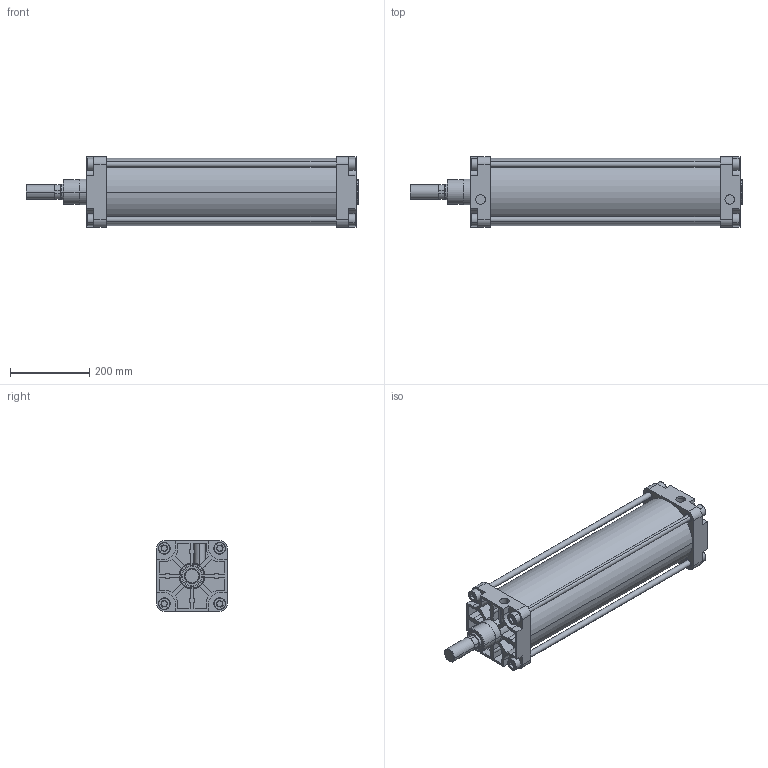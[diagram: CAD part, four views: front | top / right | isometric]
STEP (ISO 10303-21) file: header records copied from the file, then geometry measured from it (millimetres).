
FILE_DESCRIPTION(('CATIA V5 STEP Exchange'),'2;1');
FILE_NAME('D:\stp file for catalog\PNC\160\PNC 160-40-500-00.stp','2015-09-13T12:22:28+00:00',('none'),('none'),'Version 5-6 Release 2012','CATIA V5 STEP AP203','none');
FILE_SCHEMA(('CONFIG_CONTROL_DESIGN'));
Length unit declared in the file: millimetre
Products named in the file (1): PNC 160-40-500-00
Assembly tree (2 placements, depth 2):
  PNC 160-40-500-00
    #58
    #14957
Bounding box: 837 x 178 x 178 mm (x, y, z)
Volume: 6487536 mm3; surface area: 1249092.5 mm2
Topology: 6 solids, 6 shells, 583 faces, 1428 edges, 932 vertices
Faces by surface type: plane 349, cylinder 186, torus 26, extrusion 16, cone 6
Entity records: 15847 total; most frequent: CARTESIAN_POINT 3275, ORIENTED_EDGE 2856, DIRECTION 1940, EDGE_CURVE 1428, VERTEX_POINT 932, VECTOR 930, LINE 914, AXIS2_PLACEMENT_3D 715
